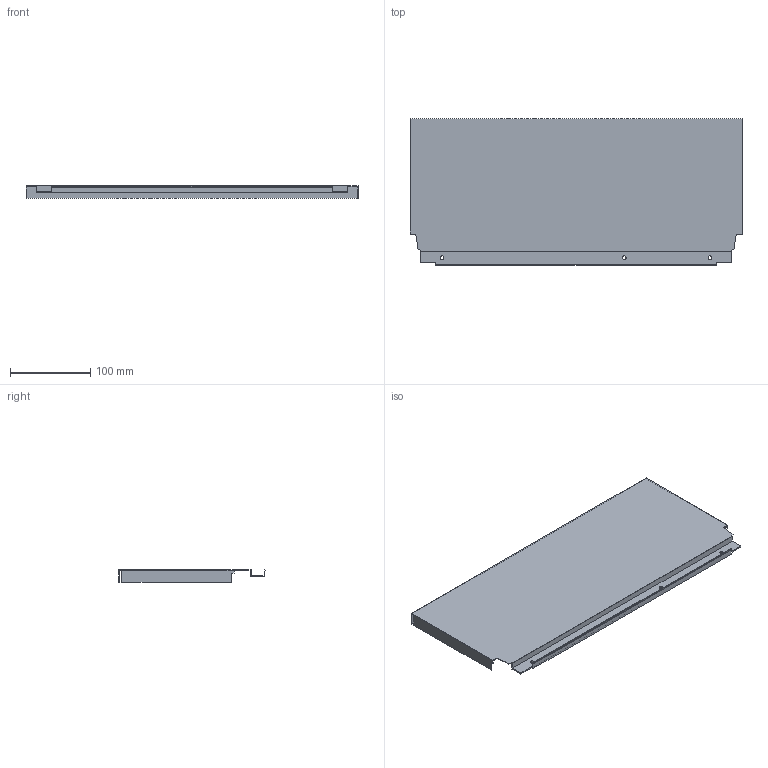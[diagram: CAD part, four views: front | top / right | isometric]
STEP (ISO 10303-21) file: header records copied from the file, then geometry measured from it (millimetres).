
FILE_DESCRIPTION (( 'STEP AP214' ), '1' );
FILE_NAME ('_DWD_XP Stahlrückwand_H182_KAB500_S18.step', '2010-07-08T12:57:54', ( 'grass' ), ( '' ), 'SwSTEP 2.0', 'SolidWorks 2010', '' );
FILE_SCHEMA (( 'AUTOMOTIVE_DESIGN' ));
Length unit declared in the file: millimetre
Products named in the file (1): _DWD_XP Stahlrückwand_H182_KAB500_S18
Bounding box: 413 x 182.49 x 16 mm (x, y, z)
Volume: 78214.8 mm3; surface area: 181915 mm2
Topology: 1 solids, 1 shells, 46 faces, 132 edges, 88 vertices
Faces by surface type: plane 40, cylinder 6
Entity records: 1534 total; most frequent: CARTESIAN_POINT 267, ORIENTED_EDGE 264, DIRECTION 238, EDGE_CURVE 132, VECTOR 120, LINE 120, VERTEX_POINT 88, AXIS2_PLACEMENT_3D 59
